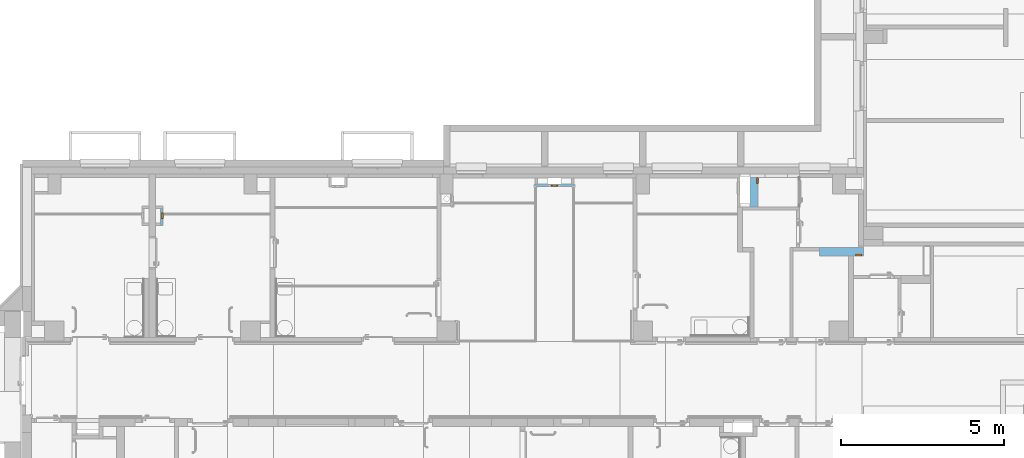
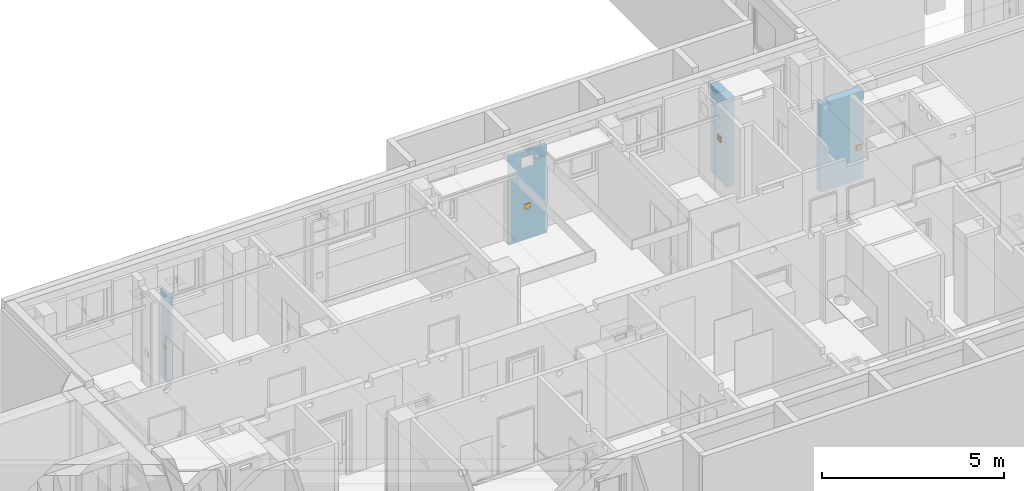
# One storey, part 75 of 84: 2 proxies, 2 windows, 7 openings, plus 4 elements that do not belong to this part.
"""IFC4 building model written with IfcOpenShell, lengths in metres."""

import ifcopenshell
import ifcopenshell.guid

model = None  # the IFC model being written
_history = None  # IfcOwnerHistory: only IFC2X3 demands one
_inside = {}  # id of a spatial element -> (the spatial element, [elements in it])
_under = {}  # id of a project, library or spatial element -> (it, [spatial elements below it])
_declared = {}  # id of a project -> (the project, [libraries it declares])
_typed = {}  # id of a type object -> (the type object, [elements of that type])
_made_of = {}  # id of a material, layer set ... -> (it, [elements and type objects made of it])


def new_model(schema):
    """Start an empty IFC model of exactly this schema.

    Asked for "IFC4X3", IfcOpenShell would pick the latest addendum, in which some entities
    have other attributes; the version numbers below select the first issue.
    IFC2X3 requires an IfcOwnerHistory on every rooted entity: one is made here for all.
    """
    global model, _history
    if schema == "IFC4X3":
        model = ifcopenshell.file(schema_version=(4, 3, 0, 0))
    else:
        model = ifcopenshell.file(schema=schema)
    _inside.clear()
    _under.clear()
    _declared.clear()
    _typed.clear()
    _made_of.clear()
    _history = None
    if model.schema == "IFC2X3":
        org = make("IfcOrganization", Name="unknown")
        user = make(
            "IfcPersonAndOrganization",
            ThePerson=make("IfcPerson", FamilyName="unknown"),
            TheOrganization=org,
        )
        app = make(
            "IfcApplication",
            ApplicationDeveloper=org,
            Version="unknown",
            ApplicationFullName="unknown",
            ApplicationIdentifier="unknown",
        )
        _history = make(
            "IfcOwnerHistory",
            OwningUser=user,
            OwningApplication=app,
            ChangeAction="ADDED",
            CreationDate=0,
        )
    return model


def make(cls, **values):
    """One entity of the class cls with the attributes given. An attribute that is None is left unset."""
    return model.create_entity(
        cls, **{name: value for name, value in values.items() if value is not None}
    )


def entity(cls, *values):
    """Any entity or typed value of the class cls, its attributes in the order of the schema. None: left unset."""
    e = model.create_entity(cls)
    for i, value in enumerate(values):
        if value is not None:
            e[i] = value
    return e


def rooted(cls, **values):
    """An entity with a GlobalId (a new one), such as an element, a storey or a relation."""
    return make(cls, GlobalId=ifcopenshell.guid.new(), OwnerHistory=_history, **values)


def si_unit(unit_type, name, prefix=None):
    """IfcSIUnit, for example si_unit("LENGTHUNIT", "METRE", prefix="MILLI")."""
    return make("IfcSIUnit", UnitType=unit_type, Prefix=prefix, Name=name)


def converted_unit(unit_type, name, factor, base, dimensions=None, offset=None):
    """IfcConversionBasedUnit, such as the inch: factor (a typed value) times the base unit."""
    return make(
        "IfcConversionBasedUnit"
        if offset is None
        else "IfcConversionBasedUnitWithOffset",
        ConversionOffset=offset,
        Dimensions=None
        if dimensions is None
        else entity("IfcDimensionalExponents", *dimensions),
        UnitType=unit_type,
        Name=name,
        ConversionFactor=make(
            "IfcMeasureWithUnit", ValueComponent=factor, UnitComponent=base
        ),
    )


def derived_unit(unit_type, elements):
    """IfcDerivedUnit: a product of units, each with its exponent."""
    return make(
        "IfcDerivedUnit",
        Elements=[
            make("IfcDerivedUnitElement", Unit=unit, Exponent=power)
            for unit, power in elements
        ],
        UnitType=unit_type,
    )


def assignment(units):
    """IfcUnitAssignment: the units of a project."""
    return None if units is None else make("IfcUnitAssignment", Units=units)


def point(xyz):
    """IfcCartesianPoint."""
    return None if xyz is None else make("IfcCartesianPoint", Coordinates=xyz)


def direction(xyz):
    """IfcDirection."""
    return None if xyz is None else make("IfcDirection", DirectionRatios=xyz)


def frame(location, z_axis=None, x_axis=None):
    """IfcAxis2Placement3D, a coordinate frame: its origin and axes. An axis left out is left unset."""
    return make(
        "IfcAxis2Placement3D",
        Location=point(location),
        Axis=direction(z_axis),
        RefDirection=direction(x_axis),
    )


def frame_2d(location, x_axis=None):
    """IfcAxis2Placement2D, a coordinate frame in the plane: its origin and x axis."""
    return make(
        "IfcAxis2Placement2D", Location=point(location), RefDirection=direction(x_axis)
    )


def origin():
    """The frame at (0, 0, 0) with its axes left unset."""
    return frame((0.0, 0.0, 0.0))


def origin_with_axes():
    """The frame at (0, 0, 0) with the z axis (0, 0, 1) and the x axis (1, 0, 0) written out."""
    return frame((0.0, 0.0, 0.0), z_axis=(0.0, 0.0, 1.0), x_axis=(1.0, 0.0, 0.0))


def place(relative_to, where):
    """IfcLocalPlacement: puts the frame where relative to a parent placement (None: the world)."""
    return make(
        "IfcLocalPlacement", PlacementRelTo=relative_to, RelativePlacement=where
    )


def context(
    kind, dimensions, precision=None, world=None, true_north=None, identifier=None
):
    """IfcGeometricRepresentationContext, for example the 3D "Model" context."""
    return make(
        "IfcGeometricRepresentationContext",
        ContextIdentifier=identifier,
        ContextType=kind,
        CoordinateSpaceDimension=dimensions,
        Precision=precision,
        WorldCoordinateSystem=world,
        TrueNorth=true_north,
    )


def subcontext(parent, identifier, kind, view, scale=None):
    """IfcGeometricRepresentationSubContext, for example "Body" below "Model"."""
    return make(
        "IfcGeometricRepresentationSubContext",
        ContextIdentifier=identifier,
        ContextType=kind,
        ParentContext=parent,
        TargetScale=scale,
        TargetView=view,
    )


def project(units=None, contexts=None):
    """IfcProject with its units and contexts."""
    return rooted(
        "IfcProject",
        Name="project",
        RepresentationContexts=contexts,
        UnitsInContext=assignment(units),
    )


def spatial(cls, under=None, at=None, **own):
    """A site, building, storey or space (cls), placed at a placement, below another one or the project."""
    s = rooted(cls, ObjectPlacement=at, **own)
    if under is not None:
        _under.setdefault(under.id(), (under, []))[1].append(s)
    return s


def polyline(points):
    """IfcPolyline through the points."""
    return make("IfcPolyline", Points=[point(p) for p in points])


def profile(cls, at=None, kind="AREA", **sizes):
    """A parametric profile (cls). Its sizes go by their IFC names, for example OverallWidth=200.0."""
    return make(cls, ProfileType=kind, Position=at, **sizes)


def rectangle(**sizes):
    """IfcRectangleProfileDef."""
    return profile("IfcRectangleProfileDef", **sizes)


def outline(outer, holes=None, kind="AREA"):
    """IfcArbitraryClosedProfileDef: a profile drawn as a closed curve; with holes, ...WithVoids."""
    if holes is None:
        return make("IfcArbitraryClosedProfileDef", ProfileType=kind, OuterCurve=outer)
    return make(
        "IfcArbitraryProfileDefWithVoids",
        ProfileType=kind,
        OuterCurve=outer,
        InnerCurves=holes,
    )


def extrude(swept, where, along, depth):
    """IfcExtrudedAreaSolid: the profile swept, set in the frame where, extruded along a direction by depth."""
    return make(
        "IfcExtrudedAreaSolid",
        SweptArea=swept,
        Position=where,
        ExtrudedDirection=direction(along),
        Depth=depth,
    )


def faces_of(points, faces, orient=None, outer=None):
    """IfcFace entities. A face is a list of loops; a loop is a list of indices into points, from 0.

    orient and outer hold one flag for each loop. By default every Orientation is true, the
    first loop of a face is its IfcFaceOuterBound and the others are IfcFaceBound.
    """
    made = []
    for i, loops in enumerate(faces):
        bounds = []
        for j, loop in enumerate(loops):
            is_outer = j == 0 if outer is None else outer[i][j]
            bounds.append(
                make(
                    "IfcFaceOuterBound" if is_outer else "IfcFaceBound",
                    Bound=make("IfcPolyLoop", Polygon=[points[k] for k in loop]),
                    Orientation=True if orient is None else orient[i][j],
                )
            )
        made.append(make("IfcFace", Bounds=bounds))
    return made


def faceted_brep(points, faces, orient=None, outer=None, voids=None):
    """IfcFacetedBrep: a solid bounded by flat faces; with voids (closed shells), ...WithVoids."""
    shared = [point(p) for p in points]
    hull = make("IfcClosedShell", CfsFaces=faces_of(shared, faces, orient, outer))
    if voids is None:
        return make("IfcFacetedBrep", Outer=hull)
    return make(
        "IfcFacetedBrepWithVoids",
        Outer=hull,
        Voids=[
            make(cls, CfsFaces=faces_of(shared, fs, o, b)) for cls, fs, o, b in voids
        ],
    )


def shape(context_of_items, identifier, shape_type, items):
    """IfcShapeRepresentation: the items that make up one representation, for example the "Body"."""
    return make(
        "IfcShapeRepresentation",
        ContextOfItems=context_of_items,
        RepresentationIdentifier=identifier,
        RepresentationType=shape_type,
        Items=items,
    )


def source(mapping_origin, context_of_items, identifier, shape_type, items):
    """IfcRepresentationMap: a shape defined once, which mapped items show again and again."""
    return make(
        "IfcRepresentationMap",
        MappingOrigin=mapping_origin,
        MappedRepresentation=shape(context_of_items, identifier, shape_type, items),
    )


def transform(
    local_origin,
    x_axis=None,
    y_axis=None,
    z_axis=None,
    scale=None,
    scale2=None,
    scale3=None,
    uniform=True,
):
    """IfcCartesianTransformationOperator3D, or its non-uniform kind. x_axis, y_axis, z_axis: its Axis1, 2, 3."""
    if uniform:
        return make(
            "IfcCartesianTransformationOperator3D",
            Axis1=direction(x_axis),
            Axis2=direction(y_axis),
            LocalOrigin=point(local_origin),
            Scale=scale,
            Axis3=direction(z_axis),
        )
    return make(
        "IfcCartesianTransformationOperator3DnonUniform",
        Axis1=direction(x_axis),
        Axis2=direction(y_axis),
        LocalOrigin=point(local_origin),
        Scale=scale,
        Axis3=direction(z_axis),
        Scale2=scale2,
        Scale3=scale3,
    )


def mapped(mapping_source, mapping_target):
    """IfcMappedItem: shows the shape of a source again, moved by a transform."""
    return make(
        "IfcMappedItem", MappingSource=mapping_source, MappingTarget=mapping_target
    )


def material(Name=None, Category=None):
    """IfcMaterial."""
    return make("IfcMaterial", Name=Name, Category=Category)


def layer(
    of_material, thickness, ventilated=None, Name=None, Category=None, Priority=None
):
    """IfcMaterialLayer: one layer of a wall or slab, of a material (None: an air gap)."""
    return make(
        "IfcMaterialLayer",
        Material=of_material,
        LayerThickness=thickness,
        IsVentilated=ventilated,
        Name=Name,
        Category=Category,
        Priority=Priority,
    )


def layer_set(layers, Name=None):
    """IfcMaterialLayerSet."""
    return make("IfcMaterialLayerSet", MaterialLayers=layers, LayerSetName=Name)


def layer_usage(for_layer_set, set_direction, sense, offset, extent=None):
    """IfcMaterialLayerSetUsage: how a layer set lies in its element."""
    return make(
        "IfcMaterialLayerSetUsage",
        ForLayerSet=for_layer_set,
        LayerSetDirection=set_direction,
        DirectionSense=sense,
        OffsetFromReferenceLine=offset,
        ReferenceExtent=extent,
    )


def made_of(thing, what):
    """Note that an element or type object is made of a material, layer set ...; save() writes the relation."""
    if what is not None:
        _made_of.setdefault(what.id(), (what, []))[1].append(thing)
    return thing


def element(
    cls,
    number,
    at=None,
    inside=None,
    cuts=None,
    type_object=None,
    material=None,
    context=None,
    identifier="Body",
    shape_type=None,
    held_by="IfcProductDefinitionShape",
    body=None,
    shapes=None,
    **own,
):
    """One element of the class cls, such as IfcWall. Its Tag is "e" and its number.

    at: its placement. inside: the storey or other place that contains it. cuts: it is an
    opening in that element (IfcRelVoidsElement). A single representation is given by context,
    identifier, shape_type and body (its items); several are given by shapes. held_by: the class
    of the entity that holds the representations. save() writes the other relations.
    """
    e = rooted(cls, Tag="e%d" % number, ObjectPlacement=at, **own)
    if body is not None:
        shapes = [shape(context, identifier, shape_type, body)]
    if shapes is not None:
        e.Representation = make(held_by, Representations=shapes)
    if inside is not None:
        _inside.setdefault(inside.id(), (inside, []))[1].append(e)
    if cuts is not None:
        rooted(
            "IfcRelVoidsElement", RelatingBuildingElement=cuts, RelatedOpeningElement=e
        )
    if type_object is not None:
        _typed.setdefault(type_object.id(), (type_object, []))[1].append(e)
    return made_of(e, material)


def fill(opening, filler):
    """IfcRelFillsElement: the door or window that sits in an opening."""
    return rooted(
        "IfcRelFillsElement",
        RelatingOpeningElement=opening,
        RelatedBuildingElement=filler,
    )


def aggregate(whole, parts):
    """IfcRelAggregates: a whole, such as a stair, and the parts it consists of."""
    return rooted("IfcRelAggregates", RelatingObject=whole, RelatedObjects=parts)


def save(model, path):
    """Write the relations noted so far, then the file.

    IfcRelAggregates (storeys below a building ...), IfcRelContainedInSpatialStructure (elements
    in a storey), IfcRelDefinesByType, IfcRelAssociatesMaterial and IfcRelDeclares: one each for
    every whole, place, type object, material and project.
    """
    for whole, parts in _under.values():
        aggregate(whole, parts)
    for where, things in _inside.values():
        rooted(
            "IfcRelContainedInSpatialStructure",
            RelatedElements=things,
            RelatingStructure=where,
        )
    for kind, things in _typed.values():
        rooted("IfcRelDefinesByType", RelatedObjects=things, RelatingType=kind)
    for what, things in _made_of.values():
        rooted("IfcRelAssociatesMaterial", RelatedObjects=things, RelatingMaterial=what)
    for by, libraries in _declared.values():
        rooted("IfcRelDeclares", RelatingContext=by, RelatedDefinitions=libraries)
    model.write(path)


model = new_model("IFC4")

# Units and contexts
model_context = context("Model", 3, precision=1e-05, world=origin())
body_context = subcontext(model_context, "Body", "Model", "MODEL_VIEW")
ifc_project = project(units=[si_unit("LENGTHUNIT", "METRE"), si_unit("AREAUNIT", "SQUARE_METRE"), si_unit("VOLUMEUNIT", "CUBIC_METRE"), si_unit("MASSUNIT", "GRAM", prefix="KILO"), converted_unit("PLANEANGLEUNIT", "DEGREE", entity("IfcPlaneAngleMeasure", 0.0174532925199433), si_unit("PLANEANGLEUNIT", "RADIAN"), dimensions=[0, 0, 0, 0, 0, 0, 0]), derived_unit("THERMALTRANSMITTANCEUNIT", [(si_unit("POWERUNIT", "WATT"), 1), (si_unit("THERMODYNAMICTEMPERATUREUNIT", "KELVIN"), -1), (si_unit("LENGTHUNIT", "METRE"), -2)]), derived_unit("VOLUMETRICFLOWRATEUNIT", [(si_unit("LENGTHUNIT", "METRE"), 3), (converted_unit("TIMEUNIT", "hour", entity("IfcTimeMeasure", 3600.0), si_unit("TIMEUNIT", "SECOND"), dimensions=[0, 0, 1, 0, 0, 0, 0]), -1), (si_unit("LENGTHUNIT", "METRE"), -1)])], contexts=[model_context])

# Site, building, storey
site_placement = place(None, origin())
site = spatial("IfcSite", under=ifc_project, at=site_placement, Name="3. ASŘ", CompositionType="ELEMENT")
building_placement = place(site_placement, origin())
building = spatial("IfcBuilding", under=site, at=building_placement, Name="Pavilon C", CompositionType="ELEMENT")
storey_placement = place(building_placement, frame((0.0, 0.0, -3.3)))
storey = spatial("IfcBuildingStorey", under=building, at=storey_placement, Name="Půdorys 1.PP", CompositionType="ELEMENT", Elevation=-3.3)

# Wall, opening, window
ifc_material_1 = material(Name="SDK ŠACHTOVÁ STĚNA/SDK OPL. S PO")
ifc_layer_1 = layer(ifc_material_1, 0.075)
ifc_layer_set_1 = layer_set([ifc_layer_1])
ifc_layer_usage_1 = layer_usage(ifc_layer_set_1, "AXIS2", "POSITIVE", 0.0)
wall_1_placement = place(storey_placement, frame((3.25, 13.955, 0.0), z_axis=(0.0, 0.0, 1.0), x_axis=(0.0, -1.0, 0.0)))
wall_1 = element("IfcWall", 1, at=wall_1_placement, inside=storey, material=ifc_layer_usage_1, Name="SDK ŠACHTOVÁ STĚNA/SDK OPL. S PO", context=body_context, shape_type="SweptSolid", body=[
    extrude(rectangle(XDim=0.525, YDim=0.075, at=frame_2d((0.2625, 0.0375), x_axis=(1.0, 0.0))), origin_with_axes(), (0.0, 0.0, 1.0), 2.95),
])
opening_1_placement = place(wall_1_placement, frame((0.325, 0.075, 1.0), z_axis=(0.0, -1.0, 0.0), x_axis=(0.0, 0.0, 1.0)))
opening_1 = element("IfcOpeningElement", 2, at=opening_1_placement, cuts=wall_1, Name="Okenní otvor", ObjectType="Opening", context=body_context, shape_type="SweptSolid", body=[
    extrude(outline(polyline([(0.0, 0.2), (0.2, 0.2), (0.2, 0.0), (0.0, 0.0), (0.0, 0.2)])), origin_with_axes(), (0.0, 0.0, 1.0), 0.075),
])
shared_shape_1 = source(origin_with_axes(), body_context, "Body", "Brep", [
    faceted_brep([(0.0, 0.06, 0.2), (0.0, 0.06, 4.91096680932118e-19), (0.02, 0.06, 4.91096680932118e-19), (0.02, 0.06, 0.2), (0.0, 0.01, 6.61433067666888e-18), (0.0, 0.01, 0.2), (0.02, 0.01, 0.2), (0.02, 0.01, 6.61433067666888e-18)], [[[0, 1, 2, 3]], [[4, 5, 6, 7]], [[1, 0, 5, 4]], [[2, 1, 4, 7]], [[3, 2, 7, 6]], [[0, 3, 6, 5]]], orient=[[False], [False], [False], [False], [False], [False]]),
    faceted_brep([(0.18, 0.06, 0.2), (0.18, 0.06, 4.91096680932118e-19), (0.2, 0.06, 4.91096680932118e-19), (0.2, 0.06, 0.2), (0.18, 0.01, 6.61433067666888e-18), (0.18, 0.01, 0.2), (0.2, 0.01, 0.2), (0.2, 0.01, 6.61433067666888e-18)], [[[0, 1, 2, 3]], [[4, 5, 6, 7]], [[1, 0, 5, 4]], [[2, 1, 4, 7]], [[3, 2, 7, 6]], [[0, 3, 6, 5]]], orient=[[False], [False], [False], [False], [False], [False]]),
    faceted_brep([(0.02, 0.06, 0.02), (0.02, 0.06, 4.91096680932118e-19), (0.18, 0.06, 4.91096680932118e-19), (0.18, 0.06, 0.02), (0.02, 0.01, 6.61433067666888e-18), (0.02, 0.01, 0.02), (0.18, 0.01, 0.02), (0.18, 0.01, 6.61433067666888e-18)], [[[0, 1, 2, 3]], [[4, 5, 6, 7]], [[1, 0, 5, 4]], [[2, 1, 4, 7]], [[3, 2, 7, 6]], [[0, 3, 6, 5]]], orient=[[False], [False], [False], [False], [False], [False]]),
    faceted_brep([(0.02, 0.06, 0.2), (0.02, 0.06, 0.18), (0.18, 0.06, 0.18), (0.18, 0.06, 0.2), (0.02, 0.01, 0.18), (0.02, 0.01, 0.2), (0.18, 0.01, 0.2), (0.18, 0.01, 0.18)], [[[0, 1, 2, 3]], [[4, 5, 6, 7]], [[1, 0, 5, 4]], [[2, 1, 4, 7]], [[3, 2, 7, 6]], [[0, 3, 6, 5]]], orient=[[False], [False], [False], [False], [False], [False]]),
    faceted_brep([(0.02, 0.01, 0.18), (0.02, 0.01, 0.02), (0.18, 0.01, 0.02), (0.18, 0.01, 0.18), (0.02, 0.0, 0.02), (0.02, 1.95399252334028e-17, 0.18), (0.18, 1.95399252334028e-17, 0.18), (0.18, 0.0, 0.02)], [[[0, 1, 2, 3]], [[4, 5, 6, 7]], [[1, 0, 5, 4]], [[2, 1, 4, 7]], [[3, 2, 7, 6]], [[0, 3, 6, 5]]], orient=[[False], [False], [False], [False], [False], [False]]),
])
window_1_placement = place(opening_1_placement, frame((0.0, -3.63797880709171e-15, -0.00999999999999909), z_axis=(1.0, 0.0, 0.0), x_axis=(0.0, 1.0, -1.22464679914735e-16)))
window_1 = element("IfcWindow", 3, at=window_1_placement, inside=storey, OverallHeight=0.2, OverallWidth=0.2, PartitioningType="USERDEFINED", PredefinedType="WINDOW", context=body_context, shape_type="MappedRepresentation", body=[
    mapped(shared_shape_1, transform((0.0, 0.0, 0.0), x_axis=(1.0, 0.0, 0.0), y_axis=(0.0, 1.0, 0.0), z_axis=(0.0, 0.0, 1.0), scale=1.0)),
])
fill(opening_1, window_1)

# Wall, openings, window
ifc_material_2 = material(Name="SDK ŠACHTOVÁ STĚNA/SDK OPL. S PO")
ifc_layer_2 = layer(ifc_material_2, 0.075)
ifc_layer_set_2 = layer_set([ifc_layer_2])
ifc_layer_usage_2 = layer_usage(ifc_layer_set_2, "AXIS2", "POSITIVE", 0.0)
wall_2_placement = place(storey_placement, frame((14.7, 14.625, 0.0)))
wall_2 = element("IfcWall", 4, at=wall_2_placement, inside=storey, material=ifc_layer_usage_2, Name="SDK ŠACHTOVÁ STĚNA/SDK OPL. S PO", context=body_context, shape_type="SweptSolid", body=[
    extrude(rectangle(XDim=1.2, YDim=0.075, at=frame_2d((0.6, 0.0375), x_axis=(1.0, 0.0))), origin_with_axes(), (0.0, 0.0, 1.0), 2.95),
])
opening_2_placement = place(wall_2_placement, frame((0.4, 0.0, 2.4), z_axis=(0.0, 1.0, 0.0), x_axis=(0.0, 0.0, 1.0)))
element("IfcOpeningElement", 5, at=opening_2_placement, cuts=wall_2, Name="Okenní otvor", ObjectType="Opening", context=body_context, shape_type="SweptSolid", body=[
    extrude(outline(polyline([(0.0, 0.4), (0.4, 0.4), (0.4, 0.0), (0.0, 0.0), (0.0, 0.4)])), origin_with_axes(), (0.0, 0.0, 1.0), 0.075),
])
opening_3_placement = place(wall_2_placement, frame((0.5, 0.0, 1.0), z_axis=(0.0, 1.0, 0.0), x_axis=(0.0, 0.0, 1.0)))
opening_3 = element("IfcOpeningElement", 6, at=opening_3_placement, cuts=wall_2, Name="Okenní otvor", ObjectType="Opening", context=body_context, shape_type="SweptSolid", body=[
    extrude(outline(polyline([(0.0, 0.2), (0.2, 0.2), (0.2, 0.0), (0.0, 0.0), (0.0, 0.2)])), origin_with_axes(), (0.0, 0.0, 1.0), 0.075),
])
opening_4_placement = place(wall_2_placement, frame((0.861897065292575, 0.0, 2.55), z_axis=(0.0, 1.0, 0.0), x_axis=(0.0, 0.0, 1.0)))
element("IfcOpeningElement", 7, at=opening_4_placement, cuts=wall_2, Name="CHL", ObjectType="Opening", context=body_context, shape_type="SweptSolid", body=[
    extrude(outline(polyline([(0.075, 0.0), (0.067160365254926, 0.000410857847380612), (0.0594066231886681, 0.00163892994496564), (0.051823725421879, 0.00367076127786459), (0.0444947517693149, 0.00648409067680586), (0.0375, 0.0100480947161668), (0.0309161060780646, 0.0143237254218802), (0.0248152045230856, 0.0192641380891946), (0.0192641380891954, 0.0248152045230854), (0.014323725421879, 0.0309161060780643), (0.0100480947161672, 0.0375), (0.00648409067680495, 0.0444947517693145), (0.00367076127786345, 0.0518237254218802), (0.00163892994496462, 0.05940662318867), (0.000410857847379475, 0.0671603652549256), (0.0, 0.075), (0.000410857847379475, 0.0828396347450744), (0.00163892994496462, 0.0905933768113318), (0.00367076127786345, 0.0981762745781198), (0.00648409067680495, 0.105505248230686), (0.0100480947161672, 0.1125), (0.014323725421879, 0.119083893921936), (0.0192641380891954, 0.125184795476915), (0.0248152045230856, 0.130735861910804), (0.0309161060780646, 0.13567627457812), (0.0375, 0.139951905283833), (0.0444947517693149, 0.143515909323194), (0.051823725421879, 0.146329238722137), (0.0594066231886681, 0.148361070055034), (0.067160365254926, 0.149589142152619), (0.075, 0.15), (0.082839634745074, 0.149589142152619), (0.0905933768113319, 0.148361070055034), (0.098176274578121, 0.146329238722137), (0.105505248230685, 0.143515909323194), (0.1125, 0.139951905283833), (0.119083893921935, 0.13567627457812), (0.125184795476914, 0.130735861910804), (0.130735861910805, 0.125184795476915), (0.135676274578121, 0.119083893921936), (0.139951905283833, 0.1125), (0.143515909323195, 0.105505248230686), (0.146329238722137, 0.0981762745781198), (0.148361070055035, 0.0905933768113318), (0.149589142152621, 0.0828396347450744), (0.15, 0.075), (0.149589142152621, 0.0671603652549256), (0.148361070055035, 0.05940662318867), (0.146329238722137, 0.0518237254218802), (0.143515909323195, 0.0444947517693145), (0.139951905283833, 0.0375), (0.135676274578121, 0.0309161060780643), (0.130735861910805, 0.0248152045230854), (0.125184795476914, 0.0192641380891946), (0.119083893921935, 0.0143237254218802), (0.1125, 0.0100480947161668), (0.105505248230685, 0.00648409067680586), (0.098176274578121, 0.00367076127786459), (0.0905933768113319, 0.00163892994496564), (0.082839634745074, 0.000410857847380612), (0.075, 0.0)])), origin_with_axes(), (0.0, 0.0, 1.0), 0.075),
])
shared_shape_2 = source(origin_with_axes(), body_context, "Body", "Brep", [
    faceted_brep([(0.0, 0.06, 0.2), (0.0, 0.06, 4.91096680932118e-19), (0.02, 0.06, 4.91096680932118e-19), (0.02, 0.06, 0.2), (0.0, 0.01, 6.61433067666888e-18), (0.0, 0.01, 0.2), (0.02, 0.01, 0.2), (0.02, 0.01, 6.61433067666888e-18)], [[[0, 1, 2, 3]], [[4, 5, 6, 7]], [[1, 0, 5, 4]], [[2, 1, 4, 7]], [[3, 2, 7, 6]], [[0, 3, 6, 5]]], orient=[[False], [False], [False], [False], [False], [False]]),
    faceted_brep([(0.18, 0.06, 0.2), (0.18, 0.06, 4.91096680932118e-19), (0.2, 0.06, 4.91096680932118e-19), (0.2, 0.06, 0.2), (0.18, 0.01, 6.61433067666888e-18), (0.18, 0.01, 0.2), (0.2, 0.01, 0.2), (0.2, 0.01, 6.61433067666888e-18)], [[[0, 1, 2, 3]], [[4, 5, 6, 7]], [[1, 0, 5, 4]], [[2, 1, 4, 7]], [[3, 2, 7, 6]], [[0, 3, 6, 5]]], orient=[[False], [False], [False], [False], [False], [False]]),
    faceted_brep([(0.02, 0.06, 0.02), (0.02, 0.06, 4.91096680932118e-19), (0.18, 0.06, 4.91096680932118e-19), (0.18, 0.06, 0.02), (0.02, 0.01, 6.61433067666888e-18), (0.02, 0.01, 0.02), (0.18, 0.01, 0.02), (0.18, 0.01, 6.61433067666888e-18)], [[[0, 1, 2, 3]], [[4, 5, 6, 7]], [[1, 0, 5, 4]], [[2, 1, 4, 7]], [[3, 2, 7, 6]], [[0, 3, 6, 5]]], orient=[[False], [False], [False], [False], [False], [False]]),
    faceted_brep([(0.02, 0.06, 0.2), (0.02, 0.06, 0.18), (0.18, 0.06, 0.18), (0.18, 0.06, 0.2), (0.02, 0.01, 0.18), (0.02, 0.01, 0.2), (0.18, 0.01, 0.2), (0.18, 0.01, 0.18)], [[[0, 1, 2, 3]], [[4, 5, 6, 7]], [[1, 0, 5, 4]], [[2, 1, 4, 7]], [[3, 2, 7, 6]], [[0, 3, 6, 5]]], orient=[[False], [False], [False], [False], [False], [False]]),
    faceted_brep([(0.02, 0.01, 0.18), (0.02, 0.01, 0.02), (0.18, 0.01, 0.02), (0.18, 0.01, 0.18), (0.02, 0.0, 0.02), (0.02, 1.95399252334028e-17, 0.18), (0.18, 1.95399252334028e-17, 0.18), (0.18, 0.0, 0.02)], [[[0, 1, 2, 3]], [[4, 5, 6, 7]], [[1, 0, 5, 4]], [[2, 1, 4, 7]], [[3, 2, 7, 6]], [[0, 3, 6, 5]]], orient=[[False], [False], [False], [False], [False], [False]]),
])
window_2_placement = place(opening_3_placement, frame((0.0, 0.2, -0.01), z_axis=(1.0, 0.0, 0.0), x_axis=(0.0, -1.0, 0.0)))
window_2 = element("IfcWindow", 8, at=window_2_placement, inside=storey, OverallHeight=0.2, OverallWidth=0.2, PartitioningType="USERDEFINED", PredefinedType="WINDOW", context=body_context, shape_type="MappedRepresentation", body=[
    mapped(shared_shape_2, transform((0.0, 0.0, 0.0), x_axis=(1.0, 0.0, 0.0), y_axis=(0.0, -1.0, 0.0), z_axis=(0.0, 0.0, 1.0), scale=1.0)),
])
fill(opening_3, window_2)

# Wall, opening, proxy
ifc_material_3 = material(Name="SDK - 2 KCE + DVOJITÉ OPLÁŠTĚNÍ")
ifc_layer_3 = layer(ifc_material_3, 0.25)
ifc_layer_set_3 = layer_set([ifc_layer_3])
ifc_layer_usage_3 = layer_usage(ifc_layer_set_3, "AXIS2", "POSITIVE", 0.0)
wall_3_placement = place(storey_placement, frame((21.275, 14.9, 0.0), z_axis=(0.0, 0.0, 1.0), x_axis=(0.0, -1.0, 0.0)))
wall_3 = element("IfcWall", 9, at=wall_3_placement, inside=storey, material=ifc_layer_usage_3, Name="SDK - 2 KCE + DVOJITÉ OPLÁŠTĚNÍ", context=body_context, shape_type="SweptSolid", body=[
    extrude(rectangle(XDim=0.9, YDim=0.25, at=frame_2d((0.45, 0.125), x_axis=(1.0, 0.0))), origin_with_axes(), (0.0, 0.0, 1.0), 2.95),
])
opening_5_placement = place(wall_3_placement, frame((0.200000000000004, 0.25, 1.0), z_axis=(0.0, -1.0, 0.0), x_axis=(0.0, 0.0, 1.0)))
opening_5 = element("IfcOpeningElement", 10, at=opening_5_placement, cuts=wall_3, Name="Stěnová nika", ObjectType="Opening", context=body_context, shape_type="SweptSolid", body=[
    extrude(outline(polyline([(0.0, 0.200000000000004), (0.2, 0.200000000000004), (0.2, 0.0), (0.0, 0.0), (0.0, 0.200000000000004)])), origin_with_axes(), (0.0, 0.0, 1.0), 0.05),
])
shared_shape_3 = source(origin_with_axes(), body_context, "Body", "Brep", [
    faceted_brep([(-3.63797880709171e-15, 0.0500000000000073, 0.2), (-3.63797880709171e-15, 0.0500000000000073, 0.0), (0.0199999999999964, 0.0500000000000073, 0.0), (0.0199999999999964, 0.0500000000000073, 0.2), (-3.63797880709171e-15, 7.27595761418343e-15, 0.0), (-3.63797880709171e-15, 7.27595761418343e-15, 0.2), (0.0199999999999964, 7.27595761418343e-15, 0.2), (0.0199999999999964, 7.27595761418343e-15, 0.0)], [[[0, 1, 2, 3]], [[4, 5, 6, 7]], [[1, 0, 5, 4]], [[2, 1, 4, 7]], [[3, 2, 7, 6]], [[0, 3, 6, 5]]], orient=[[False], [False], [False], [False], [False], [False]]),
    faceted_brep([(0.179999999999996, 0.0500000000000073, 0.2), (0.179999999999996, 0.0500000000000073, 0.0), (0.199999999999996, 0.0500000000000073, 0.0), (0.199999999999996, 0.0500000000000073, 0.2), (0.179999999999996, 7.27595761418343e-15, 0.0), (0.179999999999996, 7.27595761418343e-15, 0.2), (0.199999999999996, 7.27595761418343e-15, 0.2), (0.199999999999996, 7.27595761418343e-15, 0.0)], [[[0, 1, 2, 3]], [[4, 5, 6, 7]], [[1, 0, 5, 4]], [[2, 1, 4, 7]], [[3, 2, 7, 6]], [[0, 3, 6, 5]]], orient=[[False], [False], [False], [False], [False], [False]]),
    faceted_brep([(0.0199999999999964, 0.0500000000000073, 0.02), (0.0199999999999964, 0.0500000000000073, 0.0), (0.179999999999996, 0.0500000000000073, 0.0), (0.179999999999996, 0.0500000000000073, 0.02), (0.0199999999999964, 7.27595761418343e-15, 0.0), (0.0199999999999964, 7.27595761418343e-15, 0.02), (0.179999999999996, 7.27595761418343e-15, 0.02), (0.179999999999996, 7.27595761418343e-15, 0.0)], [[[0, 1, 2, 3]], [[4, 5, 6, 7]], [[1, 0, 5, 4]], [[2, 1, 4, 7]], [[3, 2, 7, 6]], [[0, 3, 6, 5]]], orient=[[False], [False], [False], [False], [False], [False]]),
    faceted_brep([(0.0199999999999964, 0.0500000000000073, 0.2), (0.0199999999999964, 0.0500000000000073, 0.18), (0.179999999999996, 0.0500000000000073, 0.18), (0.179999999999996, 0.0500000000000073, 0.2), (0.0199999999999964, 7.27595761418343e-15, 0.18), (0.0199999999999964, 7.27595761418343e-15, 0.2), (0.179999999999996, 7.27595761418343e-15, 0.2), (0.179999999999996, 7.27595761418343e-15, 0.18)], [[[0, 1, 2, 3]], [[4, 5, 6, 7]], [[1, 0, 5, 4]], [[2, 1, 4, 7]], [[3, 2, 7, 6]], [[0, 3, 6, 5]]], orient=[[False], [False], [False], [False], [False], [False]]),
    faceted_brep([(0.0199999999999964, 7.27595761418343e-15, 0.18), (0.0199999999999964, 7.27595761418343e-15, 0.02), (0.179999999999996, 7.27595761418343e-15, 0.02), (0.179999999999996, 7.27595761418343e-15, 0.18), (0.0199999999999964, -0.00999999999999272, 0.02), (0.0199999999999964, -0.00999999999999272, 0.18), (0.179999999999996, -0.00999999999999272, 0.18), (0.179999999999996, -0.00999999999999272, 0.02)], [[[0, 1, 2, 3]], [[4, 5, 6, 7]], [[1, 0, 5, 4]], [[2, 1, 4, 7]], [[3, 2, 7, 6]], [[0, 3, 6, 5]]], orient=[[False], [False], [False], [False], [False], [False]]),
])
proxy_1_placement = place(opening_5_placement, frame((0.0, 0.0, 0.0), z_axis=(1.0, 0.0, 0.0), x_axis=(0.0, 1.0, 0.0)))
proxy_1 = element("IfcBuildingElementProxy", 11, at=proxy_1_placement, inside=storey, context=body_context, shape_type="MappedRepresentation", body=[
    mapped(shared_shape_3, transform((0.0, 0.0, 0.0), x_axis=(1.0, 0.0, 0.0), y_axis=(0.0, 1.0, 0.0), z_axis=(0.0, 0.0, 1.0), scale=1.0)),
])
fill(opening_5, proxy_1)

# Wall, openings, proxy
ifc_material_4 = material(Name="SDK - 2 KCE + DVOJITÉ OPLÁŠTĚNÍ")
ifc_layer_4 = layer(ifc_material_4, 0.25)
ifc_layer_set_4 = layer_set([ifc_layer_4])
ifc_layer_usage_4 = layer_usage(ifc_layer_set_4, "AXIS2", "POSITIVE", 0.0)
wall_4_placement = place(storey_placement, frame((24.75, 12.75, 0.0), z_axis=(0.0, 0.0, 1.0), x_axis=(-1.0, 0.0, 0.0)))
wall_4 = element("IfcWall", 12, at=wall_4_placement, inside=storey, material=ifc_layer_usage_4, Name="SDK - 2 KCE + DVOJITÉ OPLÁŠTĚNÍ", context=body_context, shape_type="SweptSolid", body=[
    extrude(rectangle(XDim=1.35, YDim=0.25, at=frame_2d((0.675000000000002, 0.125), x_axis=(1.0, 0.0))), origin_with_axes(), (0.0, 0.0, 1.0), 2.95),
])
opening_6_placement = place(wall_4_placement, frame((0.25, 0.25, 1.0), z_axis=(0.0, -1.0, 0.0), x_axis=(0.0, 0.0, 1.0)))
opening_6 = element("IfcOpeningElement", 13, at=opening_6_placement, cuts=wall_4, Name="Stěnová nika", ObjectType="Opening", context=body_context, shape_type="SweptSolid", body=[
    extrude(outline(polyline([(0.0, 0.2), (0.2, 0.2), (0.2, 0.0), (0.0, 0.0), (0.0, 0.2)])), origin_with_axes(), (0.0, 0.0, 1.0), 0.05),
])
opening_7_placement = place(wall_4_placement, frame((1.04000000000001, 0.0, 2.72), z_axis=(0.0, 1.0, 0.0), x_axis=(0.0, 0.0, 1.0)))
element("IfcOpeningElement", 14, at=opening_7_placement, cuts=wall_4, Name="VZT", ObjectType="Opening", context=body_context, shape_type="SweptSolid", body=[
    extrude(outline(polyline([(0.125, 0.25), (0.138066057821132, 0.249315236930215), (0.150988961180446, 0.247268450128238), (0.163627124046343, 0.243882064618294), (0.175842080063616, 0.239193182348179), (0.187499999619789, 0.233253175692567), (0.19847315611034, 0.226127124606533), (0.20864132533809, 0.21789310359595), (0.217893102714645, 0.208641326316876), (0.226127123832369, 0.198473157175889), (0.233253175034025, 0.187500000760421), (0.239193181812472, 0.175842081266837), (0.243882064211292, 0.163627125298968), (0.247268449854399, 0.150988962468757), (0.249315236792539, 0.138066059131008), (0.25, 0.12500000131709), (0.249315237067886, 0.111933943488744), (0.247268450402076, 0.0990110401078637), (0.243882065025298, 0.0863728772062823), (0.239193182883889, 0.074157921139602), (0.233253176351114, 0.0625000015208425), (0.2261271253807, 0.0515268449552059), (0.217893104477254, 0.0413586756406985), (0.208641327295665, 0.0321068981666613), (0.198473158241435, 0.0238728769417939), (0.187500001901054, 0.0167468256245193), (0.175842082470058, 0.0108068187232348), (0.163627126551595, 0.00611793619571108), (0.150988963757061, 0.00273155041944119), (0.138066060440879, 0.000684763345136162), (0.124999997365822, 0.0), (0.111933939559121, 0.000684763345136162), (0.0990110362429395, 0.00273155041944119), (0.0863728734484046, 0.00611793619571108), (0.0741579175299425, 0.0108068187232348), (0.0624999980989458, 0.0167468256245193), (0.0515268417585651, 0.0238728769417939), (0.0413586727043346, 0.0321068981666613), (0.0321068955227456, 0.0413586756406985), (0.0238728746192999, 0.0515268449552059), (0.0167468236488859, 0.0625000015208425), (0.010806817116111, 0.074157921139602), (0.00611793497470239, 0.0863728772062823), (0.0027315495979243, 0.0990110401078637), (0.000684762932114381, 0.111933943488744), (0.0, 0.12500000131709), (0.000684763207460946, 0.138066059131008), (0.00273155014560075, 0.150988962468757), (0.00611793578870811, 0.163627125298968), (0.0108068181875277, 0.175842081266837), (0.0167468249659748, 0.187500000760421), (0.0238728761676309, 0.198473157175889), (0.0321068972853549, 0.208641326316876), (0.0413586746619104, 0.21789310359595), (0.0515268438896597, 0.226127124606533), (0.0625000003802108, 0.233253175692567), (0.0741579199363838, 0.239193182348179), (0.0863728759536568, 0.243882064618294), (0.0990110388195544, 0.247268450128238), (0.111933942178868, 0.249315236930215), (0.125, 0.25)])), origin_with_axes(), (0.0, 0.0, 1.0), 0.25),
])
shared_shape_4 = source(origin_with_axes(), body_context, "Body", "Brep", [
    faceted_brep([(0.2, 0.05, 0.2), (0.18, 0.05, 0.2), (0.18, 0.05, 0.0), (0.2, 0.05, 0.0), (0.2, 0.0, 0.0), (0.18, 0.0, 0.0), (0.18, 0.0, 0.2), (0.2, 0.0, 0.2)], [[[0, 1, 2, 3]], [[4, 5, 6, 7]], [[3, 4, 7, 0]], [[2, 5, 4, 3]], [[1, 6, 5, 2]], [[0, 7, 6, 1]]], orient=[[False], [False], [False], [False], [False], [False]]),
    faceted_brep([(0.02, 0.05, 0.2), (0.0, 0.05, 0.2), (0.0, 0.05, 0.0), (0.02, 0.05, 0.0), (0.02, 0.0, 0.0), (0.0, 0.0, 0.0), (0.0, 0.0, 0.2), (0.02, 0.0, 0.2)], [[[0, 1, 2, 3]], [[4, 5, 6, 7]], [[3, 4, 7, 0]], [[2, 5, 4, 3]], [[1, 6, 5, 2]], [[0, 7, 6, 1]]], orient=[[False], [False], [False], [False], [False], [False]]),
    faceted_brep([(0.18, 0.05, 0.02), (0.02, 0.05, 0.02), (0.02, 0.05, 0.0), (0.18, 0.05, 0.0), (0.18, 0.0, 0.0), (0.02, 0.0, 0.0), (0.02, 0.0, 0.02), (0.18, 0.0, 0.02)], [[[0, 1, 2, 3]], [[4, 5, 6, 7]], [[3, 4, 7, 0]], [[2, 5, 4, 3]], [[1, 6, 5, 2]], [[0, 7, 6, 1]]], orient=[[False], [False], [False], [False], [False], [False]]),
    faceted_brep([(0.18, 0.05, 0.2), (0.02, 0.05, 0.2), (0.02, 0.05, 0.18), (0.18, 0.05, 0.18), (0.18, 0.0, 0.18), (0.02, 0.0, 0.18), (0.02, 0.0, 0.2), (0.18, 0.0, 0.2)], [[[0, 1, 2, 3]], [[4, 5, 6, 7]], [[3, 4, 7, 0]], [[2, 5, 4, 3]], [[1, 6, 5, 2]], [[0, 7, 6, 1]]], orient=[[False], [False], [False], [False], [False], [False]]),
    faceted_brep([(0.18, 0.0, 0.18), (0.02, 0.0, 0.18), (0.02, 0.0, 0.02), (0.18, 0.0, 0.02), (0.18, -0.01, 0.02), (0.02, -0.01, 0.02), (0.02, -0.01, 0.18), (0.18, -0.01, 0.18)], [[[0, 1, 2, 3]], [[4, 5, 6, 7]], [[3, 4, 7, 0]], [[2, 5, 4, 3]], [[1, 6, 5, 2]], [[0, 7, 6, 1]]], orient=[[False], [False], [False], [False], [False], [False]]),
])
proxy_2_placement = place(opening_6_placement, frame((0.0, 0.0, 0.0), z_axis=(1.0, 0.0, 0.0), x_axis=(0.0, 1.0, 0.0)))
proxy_2 = element("IfcBuildingElementProxy", 15, at=proxy_2_placement, inside=storey, context=body_context, shape_type="MappedRepresentation", body=[
    mapped(shared_shape_4, transform((0.0, 0.0, 0.0), x_axis=(1.0, 0.0, 0.0), y_axis=(0.0, 1.0, 0.0), z_axis=(0.0, 0.0, 1.0), scale=1.0)),
])
fill(opening_6, proxy_2)

save(model, "model.ifc")
